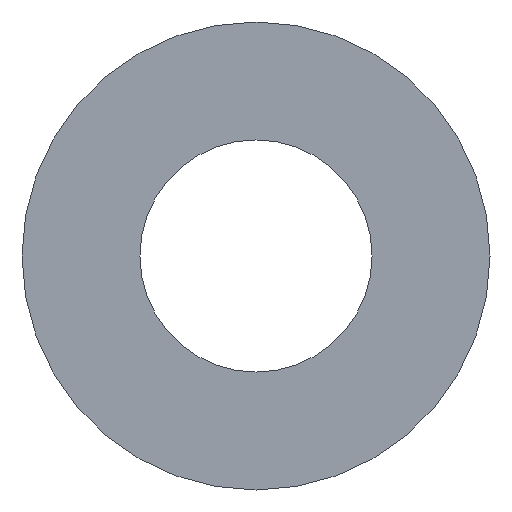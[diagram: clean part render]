
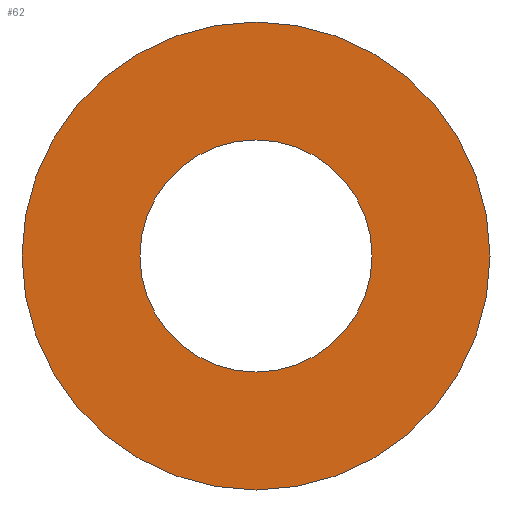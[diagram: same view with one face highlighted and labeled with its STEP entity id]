
A CAD part, front view. The second image highlights one B-rep face of the part: STEP entity #62.
In plain terms, the highlighted planar face has unit normal (0, -1, 0).
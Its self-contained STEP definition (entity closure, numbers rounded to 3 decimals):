
#20=PLANE('',#83);
#26=ORIENTED_EDGE('',*,*,#30,.T.);
#27=ORIENTED_EDGE('',*,*,#32,.F.);
#30=EDGE_CURVE('',#34,#34,#38,.T.);
#32=EDGE_CURVE('',#36,#36,#40,.T.);
#34=VERTEX_POINT('',#106);
#36=VERTEX_POINT('',#111);
#38=CIRCLE('',#78,31.5);
#40=CIRCLE('',#81,63.5);
#46=EDGE_LOOP('',(#26));
#47=EDGE_LOOP('',(#27));
#54=FACE_BOUND('',#46,.T.);
#55=FACE_BOUND('',#47,.T.);
#62=ADVANCED_FACE('',(#54,#55),#20,.F.);
#78=AXIS2_PLACEMENT_3D('',#105,#89,#90);
#81=AXIS2_PLACEMENT_3D('',#110,#95,#96);
#83=AXIS2_PLACEMENT_3D('',#114,#99,#100);
#89=DIRECTION('',(0.,1.,0.));
#90=DIRECTION('',(1.,0.,0.));
#95=DIRECTION('',(0.,1.,0.));
#96=DIRECTION('',(1.,0.,0.));
#99=DIRECTION('',(0.,1.,0.));
#100=DIRECTION('',(0.,0.,1.));
#105=CARTESIAN_POINT('',(0.,-1.5,0.));
#106=CARTESIAN_POINT('',(31.5,-1.5,0.));
#110=CARTESIAN_POINT('',(0.,-1.5,0.));
#111=CARTESIAN_POINT('',(63.5,-1.5,0.));
#114=CARTESIAN_POINT('',(0.,-1.5,0.));
